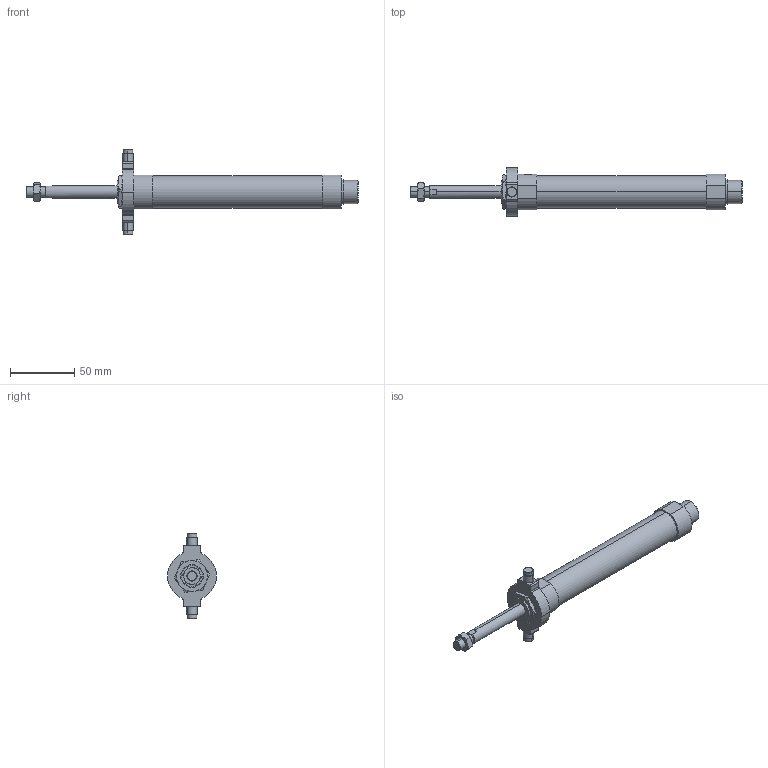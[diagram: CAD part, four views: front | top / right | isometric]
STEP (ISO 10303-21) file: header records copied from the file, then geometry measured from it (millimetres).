
FILE_DESCRIPTION (( 'STEP AP203' ), '1' );
FILE_NAME ('J#0-20-50-T.STEP', '2016-03-08T06:31:09', ( '' ), ( '' ), 'SwSTEP 2.0', 'SolidWorks 2014', '' );
FILE_SCHEMA (( 'CONFIG_CONTROL_DESIGN' ));
Length unit declared in the file: millimetre
Products named in the file (5): J#0-20-50-T; J#0-20-50; J#2-20-T
Assembly tree (4 placements, depth 2):
  J#0-20-50-T
    J#0-20-50
    (unnamed)
    (unnamed)
    J#2-20-T
Bounding box: 259 x 38 x 66 mm (x, y, z)
Volume: 105109.2 mm3; surface area: 24062 mm2
Topology: 4 solids, 4 shells, 128 faces, 285 edges, 176 vertices
Faces by surface type: cylinder 45, plane 45, torus 24, cone 14
Entity records: 4356 total; most frequent: CARTESIAN_POINT 986, DIRECTION 627, ORIENTED_EDGE 570, EDGE_CURVE 285, AXIS2_PLACEMENT_3D 261, VERTEX_POINT 176, EDGE_LOOP 145, ADVANCED_FACE 128
